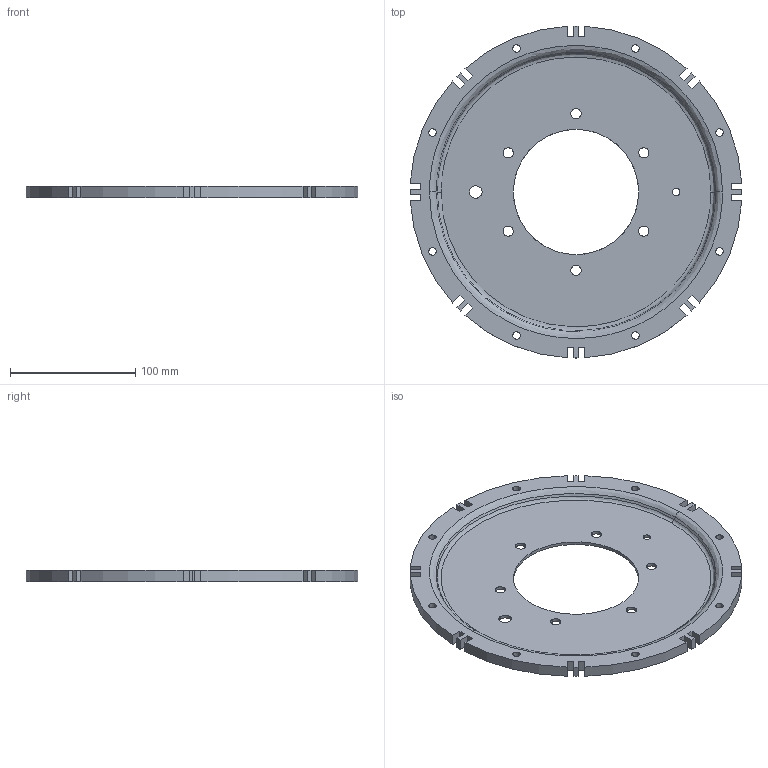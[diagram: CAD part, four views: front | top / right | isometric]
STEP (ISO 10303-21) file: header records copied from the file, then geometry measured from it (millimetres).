
FILE_DESCRIPTION(('CATIA V5 STEP Exchange'),'2;1');
FILE_NAME('D:\交接\张长江\21-Benz H6\光华荣昌转盘数据\H6 转盘\转盘用整椅数据 A9609109920\sample\H6 转盘夏季测试样件方案_20240617\样件数据\钣金件\SHT0017294-2 下板锁孔.stp','2024-06-19T06:41:43+00:00',('none'),('none'),'CATIA Version 5 Release 20 GA (IN-10)','CATIA V5 STEP AP203 Edition 2','none');
FILE_SCHEMA(('AP203_CONFIGURATION_CONTROLLED_3D_DESIGN_OF_MECHANICAL_PARTS_AND_ASSEMBLIES_MIM_LF { 1 0 10303 403 2 1 2}'));
Length unit declared in the file: millimetre
Products named in the file (1): SHT0017294-2
Bounding box: 265 x 265 x 9 mm (x, y, z)
Volume: 212214.1 mm3; surface area: 106436.6 mm2
Topology: 1 solids, 1 shells, 143 faces, 416 edges, 276 vertices
Faces by surface type: cylinder 86, plane 51, bspline 6
Entity records: 5459 total; most frequent: CARTESIAN_POINT 1757, ORIENTED_EDGE 832, DIRECTION 612, EDGE_CURVE 416, VERTEX_POINT 276, AXIS2_PLACEMENT_3D 262, VECTOR 230, LINE 230
